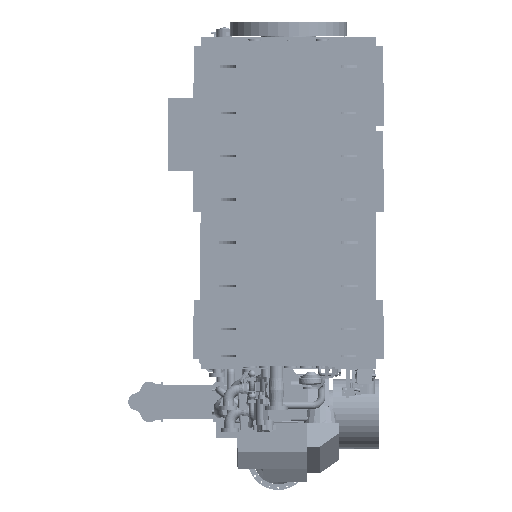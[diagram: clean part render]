
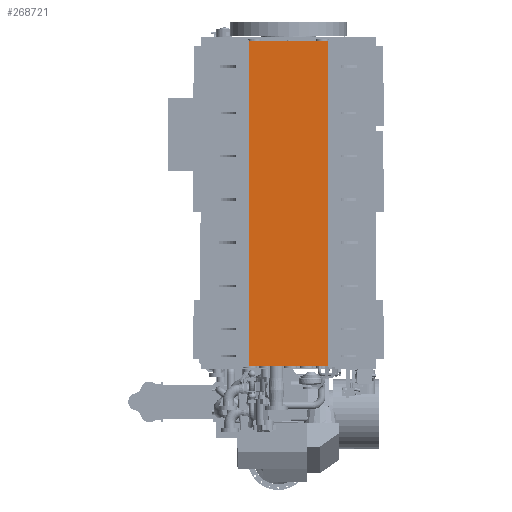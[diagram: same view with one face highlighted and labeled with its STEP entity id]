
A CAD part, front view. The second image highlights one B-rep face of the part: STEP entity #268721.
In plain terms, the highlighted planar face has unit normal (0, -1, 0).
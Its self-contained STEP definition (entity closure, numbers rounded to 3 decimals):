
#265294=DIRECTION('',(0.,0.,1.));
#265295=VECTOR('',#265294,3990.);
#265296=CARTESIAN_POINT('',(-490.,-1372.,-3368.));
#265297=LINE('',#265296,#265295);
#265298=DIRECTION('',(0.,0.,1.));
#265299=VECTOR('',#265298,3990.);
#265300=CARTESIAN_POINT('',(490.,-1372.,-3368.));
#265301=LINE('',#265300,#265299);
#266232=DIRECTION('',(1.,0.,0.));
#266233=VECTOR('',#266232,980.);
#266234=CARTESIAN_POINT('',(-490.,-1372.,622.));
#266235=LINE('',#266234,#266233);
#266280=DIRECTION('',(1.,0.,0.));
#266281=VECTOR('',#266280,980.);
#266282=CARTESIAN_POINT('',(-490.,-1372.,-3368.));
#266283=LINE('',#266282,#266281);
#267780=CARTESIAN_POINT('',(-490.,-1372.,622.));
#267781=CARTESIAN_POINT('',(490.,-1372.,622.));
#267782=VERTEX_POINT('',#267780);
#267783=VERTEX_POINT('',#267781);
#267820=CARTESIAN_POINT('',(-490.,-1372.,-3368.));
#267821=VERTEX_POINT('',#267820);
#267822=CARTESIAN_POINT('',(490.,-1372.,-3368.));
#267823=VERTEX_POINT('',#267822);
#268707=CARTESIAN_POINT('',(-490.,-1372.,607.));
#268708=DIRECTION('',(0.,-1.,0.));
#268709=DIRECTION('',(1.,0.,0.));
#268710=AXIS2_PLACEMENT_3D('',#268707,#268708,#268709);
#268711=PLANE('',#268710);
#268713=ORIENTED_EDGE('',*,*,#268712,.F.);
#268715=ORIENTED_EDGE('',*,*,#268714,.F.);
#268716=ORIENTED_EDGE('',*,*,#268692,.T.);
#268718=ORIENTED_EDGE('',*,*,#268717,.T.);
#268719=EDGE_LOOP('',(#268713,#268715,#268716,#268718));
#268720=FACE_OUTER_BOUND('',#268719,.F.);
#268721=ADVANCED_FACE('',(#268720),#268711,.T.);
#268692=EDGE_CURVE('',#267821,#267782,#265297,.T.);
#268712=EDGE_CURVE('',#267823,#267783,#265301,.T.);
#268714=EDGE_CURVE('',#267821,#267823,#266283,.T.);
#268717=EDGE_CURVE('',#267782,#267783,#266235,.T.);
